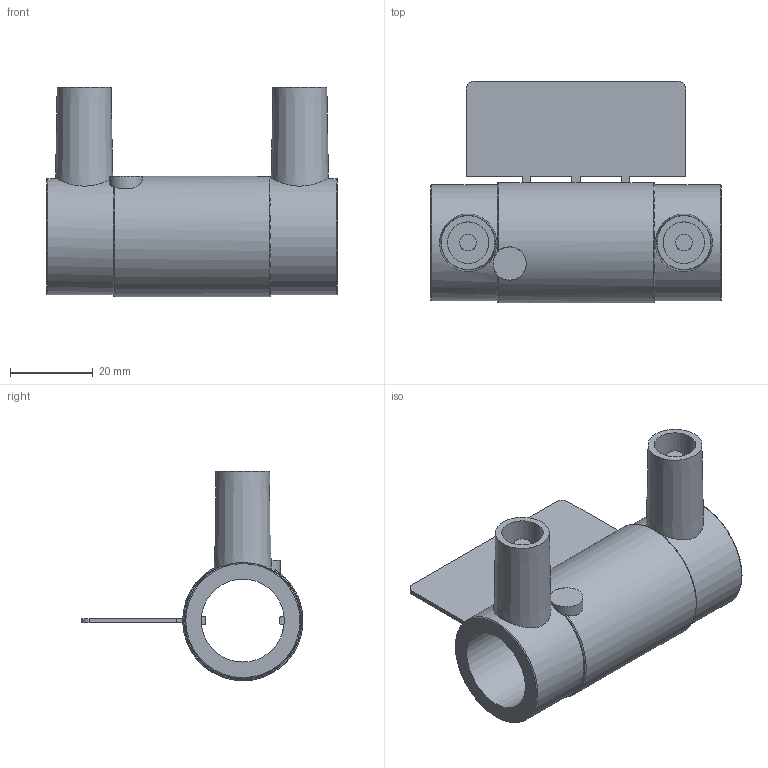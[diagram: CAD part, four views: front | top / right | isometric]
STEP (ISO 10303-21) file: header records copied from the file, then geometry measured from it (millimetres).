
FILE_DESCRIPTION(/* description */ ('Unknown'),/* implementation_level */ '2;1');
FILE_NAME(/* name */ 'MP020C.P',/* time_stamp */ '2021-07-09T09:57:15+02:00',/* author */ ('Unknown'),/* organization */ ('Unknown'),/* preprocessor_version */ 'ST-DEVELOPER v16.7',/* originating_system */ 'Solid Edge',/* authorisation */ 'Unknown');
FILE_SCHEMA (('AUTOMOTIVE_DESIGN {1 0 10303 214 3 1 1}'));
Length unit declared in the file: millimetre
Products named in the file (1): MP020C.P
Bounding box: 70 x 53.49 x 50.5 mm (x, y, z)
Volume: 28621 mm3; surface area: 16916.5 mm2
Topology: 1 solids, 1 shells, 58 faces, 149 edges, 99 vertices
Faces by surface type: plane 37, cylinder 15, torus 4, cone 2
Full cylindrical faces by diameter (mm): 4 x2, 8 x1, 10 x2, 20 x1, 28 x2, 29 x1
Entity records: 1699 total; most frequent: CARTESIAN_POINT 334, DIRECTION 281, ORIENTED_EDGE 248, EDGE_CURVE 124, AXIS2_PLACEMENT_3D 105, VERTEX_POINT 90, EDGE_LOOP 86, FACE_BOUND 86
